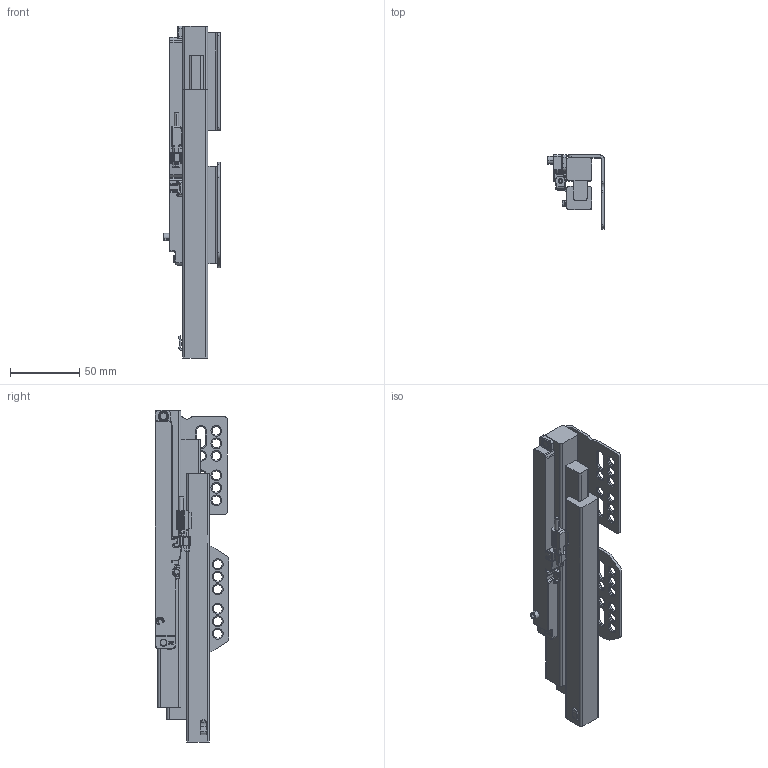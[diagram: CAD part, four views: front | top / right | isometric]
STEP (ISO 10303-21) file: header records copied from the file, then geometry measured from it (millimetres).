
FILE_DESCRIPTION (( 'STEP AP203' ), '1' );
FILE_NAME ('HB012504GX-L(闭合).STEP', '2025-05-13T07:51:57', ( '微软用户' ), ( '微软中国' ), 'SwSTEP 2.0', 'SolidWorks 2021', '' );
FILE_SCHEMA (( 'CONFIG_CONTROL_DESIGN' ));
Length unit declared in the file: millimetre
Products named in the file (1): HB012504GX-L(敕磁)
Bounding box: 40.83 x 53 x 238.9 mm (x, y, z)
Volume: 173867.4 mm3; surface area: 54767.7 mm2
Topology: 3 solids, 3 shells, 1194 faces, 3216 edges, 2011 vertices
Faces by surface type: cylinder 489, plane 368, torus 158, bspline 127, cone 44, sphere 8
Entity records: 68287 total; most frequent: CARTESIAN_POINT 39425, ORIENTED_EDGE 6368, DIRECTION 5823, EDGE_CURVE 3184, AXIS2_PLACEMENT_3D 2195, VERTEX_POINT 2011, VECTOR 1433, LINE 1433
